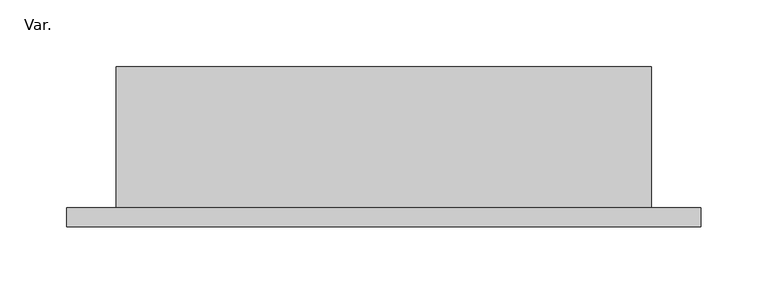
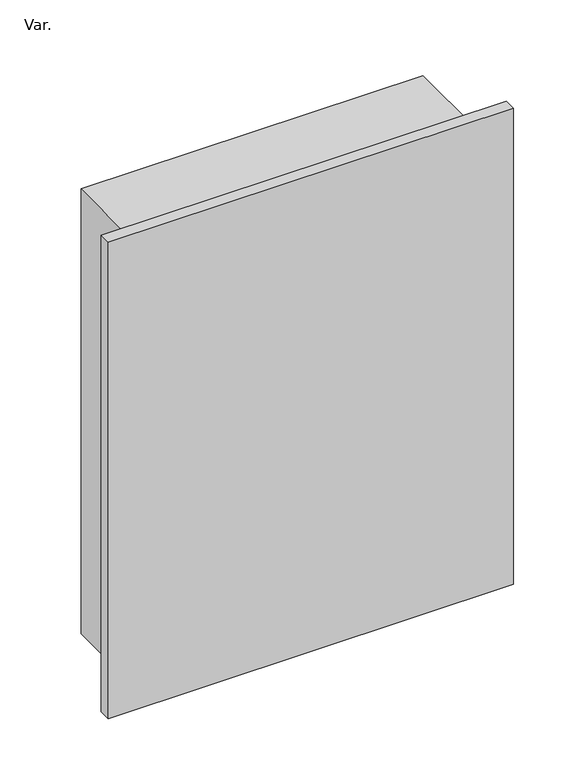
"""IFC4 building model written with IfcOpenShell, lengths in millimetres: pipe fitting geometry, Wavin_Tappevann_Brass_Manifold Cabinet : Var.."""

from ifc_helpers import new_model, si_unit, frame, origin, place, context, project, spatial, polyline, outline, extrude, faceted_brep, source, transform, mapped, element, save


def var_d1815faf(model_context):
    return source(origin(), model_context, "Body", "SolidModel", [
        faceted_brep([(-200.0, 105.3, -275.0), (-200.0, 105.3, 275.0), (200.0, 105.3, 275.0), (200.0, 105.3, -275.0), (-200.0, 0.0, -275.0), (200.0, 0.0, -275.0), (200.0, 0.0, 275.0), (-200.0, 0.0, 275.0), (196.0, 0.0, -271.0), (-196.0, 0.0, -271.0), (-196.0, 0.0, 271.0), (196.0, 0.0, 271.0), (-196.0, 95.3, -271.0), (196.0, 95.3, -271.0), (196.0, 95.3, 271.0), (-196.0, 95.3, 271.0)], [[[0, 1, 2, 3]], [[4, 5, 6, 7], [8, 9, 10, 11]], [[0, 3, 5, 4]], [[3, 2, 6, 5]], [[2, 1, 7, 6]], [[1, 0, 4, 7]], [[12, 13, 14, 15]], [[13, 12, 9, 8]], [[14, 13, 8, 11]], [[15, 14, 11, 10]], [[12, 15, 10, 9]]]),
        extrude(outline(polyline([(237.0, -14.3), (-237.0, -14.3), (-237.0, 0.0), (237.0, 0.0), (237.0, -14.3)])), frame((0.0, 0.0, -294.5), z_axis=(0.0, 0.0, 1.0), x_axis=(1.0, 0.0, 0.0)), (0.0, 0.0, 1.0), 589.0),
    ])


if __name__ == "__main__":
    model = new_model("IFC4")
    model_context = context("Model", 3, world=origin())
    ifc_project = project(units=[si_unit("LENGTHUNIT", "METRE", prefix="MILLI")], contexts=[model_context])
    site = spatial("IfcSite", under=ifc_project)
    building = spatial("IfcBuilding", under=site)
    placement = place(None, origin())
    var_shape = var_d1815faf(model_context)
    element("IfcPipeFitting", 1, ObjectType="Wavin_Tappevann_Brass_Manifold Cabinet : Var.", at=placement, inside=building, context=model_context, shape_type="MappedRepresentation", body=[
        mapped(var_shape, transform((0.0, 0.0, 0.0), x_axis=(1.0, 0.0, 0.0), y_axis=(0.0, 1.0, 0.0), z_axis=(0.0, 0.0, 1.0))),
    ])
    save(model, "model.ifc")
